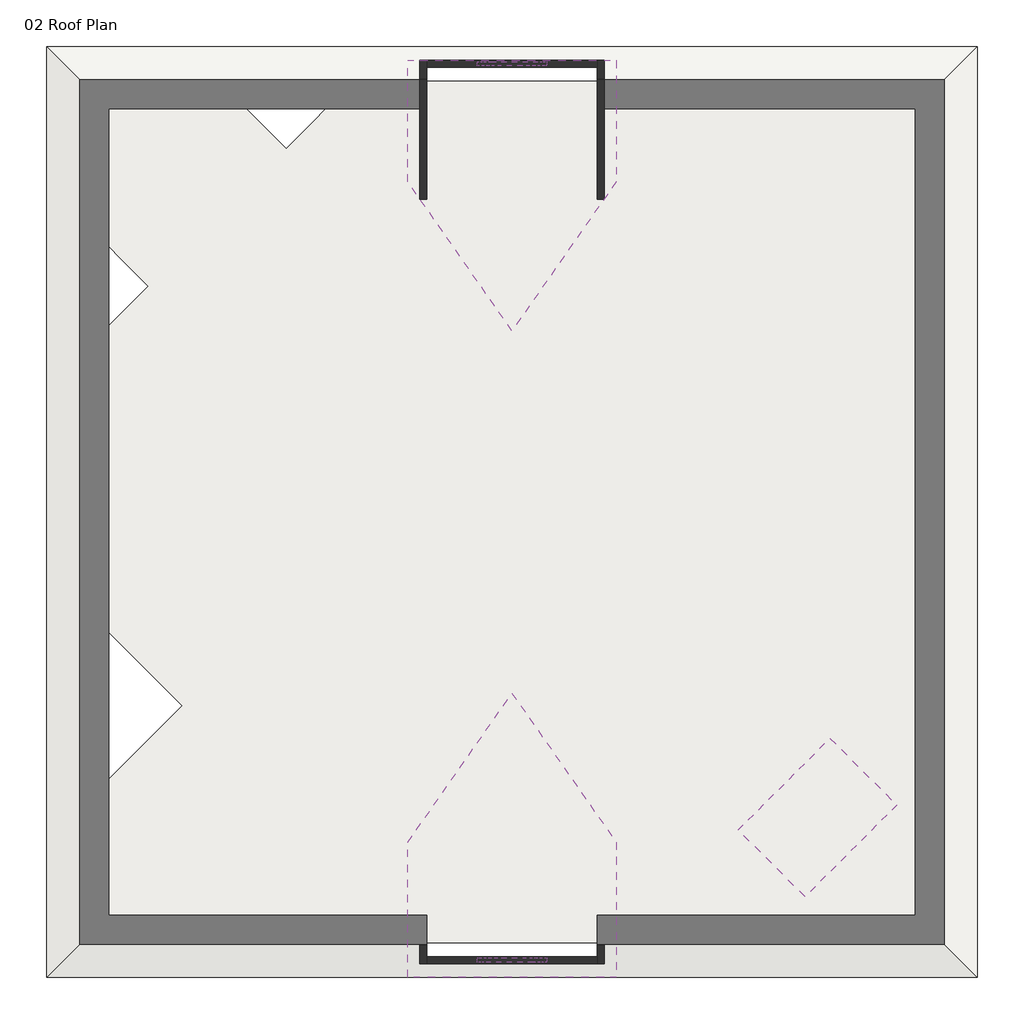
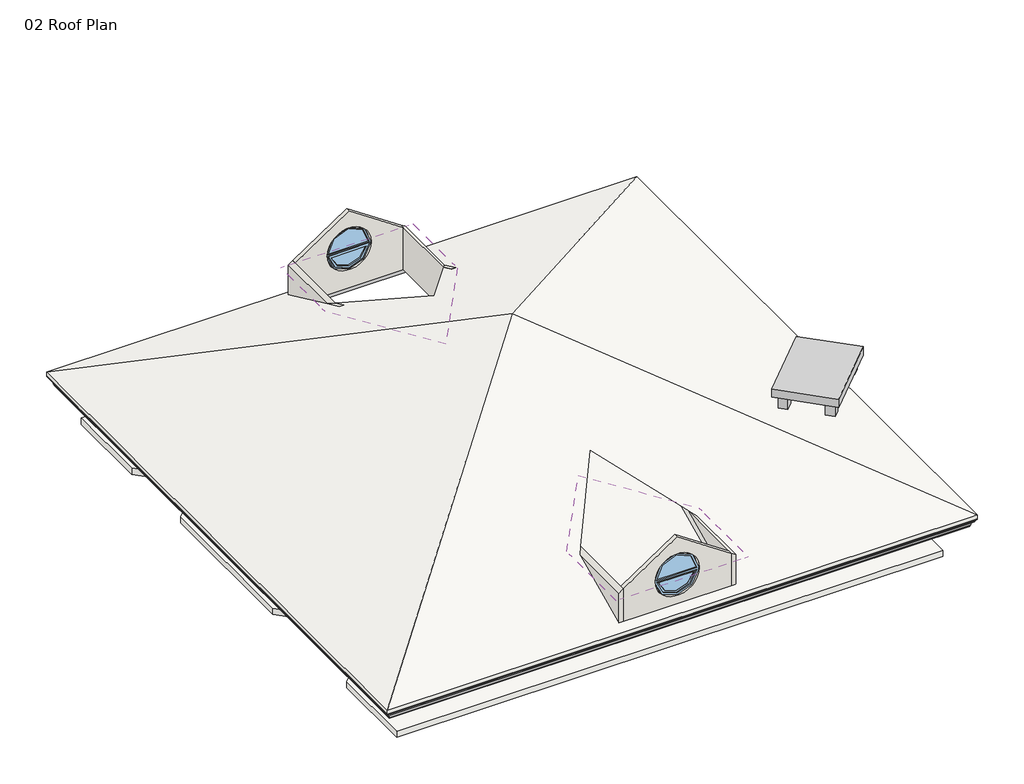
# One storey: 6 walls, 3 proxies, 3 roofs, 2 windows, 1 slab.
"""IFC4 building model written with IfcOpenShell, lengths in millimetres."""

from ifc_helpers import new_model, si_unit, frame, origin, place, context, project, spatial, polyline, circle_curve, ellipse_curve, outline, extrude, faceted_brep, transform, mapped, element, save
from ifc_brep_helpers import plane_surface, cylinder_surface, revolved_surface, advanced_brep
from components import generic_models_19_generic_models_19_1280a4e2, generic_models_21_generic_models_21_14a27b0a, window_round_1000_mm_dia_47539739

model = new_model("IFC4")

# Units and contexts
model_context = context("Model", 3, world=origin())
ifc_project = project(units=[si_unit("LENGTHUNIT", "METRE", prefix="MILLI")], contexts=[model_context])

# Site, building, storey
site = spatial("IfcSite", under=ifc_project)
building = spatial("IfcBuilding", under=site)
storey = spatial("IfcBuildingStorey", under=building, Name="02 Roof Plan", Elevation=6600.0)

# Proxies
placement = place(None, origin())
generic_models_19_generic_models_19_shape = generic_models_19_generic_models_19_1280a4e2(model_context)
element("IfcBuildingElementProxy", 1, Name="Generic Models 19 : Generic Models 19", ObjectType="Generic Models 19 : Generic Models 19", at=placement, inside=storey, context=model_context, shape_type="MappedRepresentation", body=[
    mapped(generic_models_19_generic_models_19_shape, transform((0.0, 0.0, 0.0), x_axis=(1.0, 0.0, 0.0), y_axis=(0.0, 1.0, 0.0), z_axis=(0.0, 0.0, 1.0))),
])
generic_models_21_generic_models_21_shape = generic_models_21_generic_models_21_14a27b0a(model_context)
element("IfcBuildingElementProxy", 2, Name="Generic Models 21 : Generic Models 21", ObjectType="Generic Models 21 : Generic Models 21", at=placement, inside=storey, context=model_context, shape_type="MappedRepresentation", body=[
    mapped(generic_models_21_generic_models_21_shape, transform((0.0, 0.0, 0.0), x_axis=(1.0, 0.0, 0.0), y_axis=(0.0, 1.0, 0.0), z_axis=(0.0, 0.0, 1.0))),
])
element("IfcBuildingElementProxy", 3, Name="Mass 2 : Mass 2", ObjectType="Mass 2 : Mass 2", at=placement, inside=storey, context=model_context, shape_type="AdvancedBrep", body=[
    advanced_brep(
    [(13185.4886219, 13185.4885097, 7460.2615574), (13185.4886219, 13185.4885097, 7468.2615574), (13185.4886219, -185.488728, 7468.2615574), (13185.4886219, -185.488728, 7460.2615574), (13174.4886219, 13174.4885097, 7444.2615574), (13174.4886219, -174.488728, 7444.2615574), (13165.4886219, 13165.4885097, 7444.2615574), (13165.4886219, -165.488728, 7444.2615574), (13165.4886219, 13165.4885097, 7433.1779329), (13165.4886219, -165.488728, 7433.1779329), (13144.1250626, 13144.1249504, 7395.9337382), (13144.1250626, -144.1251687, 7395.9337382), (13104.4886219, 13104.4885097, 7313.2615574), (13104.4886219, -104.488728, 7313.2615574), (13095.4886219, 13095.4885097, 7313.2615574), (13095.4886219, -95.488728, 7313.2615574), (13095.4886219, 13095.4885097, 7301.2615574), (13095.4886219, -95.488728, 7301.2615574), (13088.4886219, 13088.4885097, 7301.2615574), (13088.4886219, -88.488728, 7301.2615574), (13088.4886219, 13088.4885097, 7281.2615574), (13088.4886219, -88.488728, 7281.2615574), (13000.0001123, 13000.0, 7281.2615574), (13000.0001123, -0.0002183, 7281.2615574), (13000.0001123, 13000.0, 7482.2615574), (13000.0001123, -0.0002183, 7482.2615574), (13199.4886219, 13199.4885097, 7482.2615574), (13199.4886219, -199.488728, 7482.2615574), (-185.4886157, -185.488728, 7468.2615574), (-185.4886157, -185.488728, 7460.2615574), (-174.4886157, -174.488728, 7444.2615574), (-165.4886157, -165.488728, 7444.2615574), (-165.4886157, -165.488728, 7433.1779329), (-144.1250564, -144.1251687, 7395.9337382), (-104.4886157, -104.488728, 7313.2615574), (-95.4886157, -95.488728, 7313.2615574), (-95.4886157, -95.488728, 7301.2615574), (-88.4886157, -88.488728, 7301.2615574), (-88.4886157, -88.488728, 7281.2615574), (-0.0001061, -0.0002183, 7281.2615574), (-0.0001061, -0.0002183, 7482.2615574), (-199.4886157, -199.488728, 7482.2615574), (-185.4886157, 13185.4885097, 7468.2615574), (-185.4886157, 13185.4885097, 7460.2615574), (-174.4886157, 13174.4885097, 7444.2615574), (-165.4886157, 13165.4885097, 7444.2615574), (-165.4886157, 13165.4885097, 7433.1779329), (-144.1250564, 13144.1249504, 7395.9337382), (-104.4886157, 13104.4885097, 7313.2615574), (-95.4886157, 13095.4885097, 7313.2615574), (-95.4886157, 13095.4885097, 7301.2615574), (-88.4886157, 13088.4885097, 7301.2615574), (-88.4886157, 13088.4885097, 7281.2615574), (-0.0001061, 13000.0, 7281.2615574), (-0.0001061, 13000.0, 7482.2615574), (-199.4886157, 13199.4885097, 7482.2615574)],
    [
        (0, 1),
        (1, 2),
        (2, 3),
        (3, 0),
        (4, 0, ellipse_curve(frame((13189.7399909, 13189.7398787, 7445.5574912), z_axis=(-0.7071067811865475, 0.7071067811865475, 0.0), x_axis=(-0.7071067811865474, -0.7071067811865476, 0.0)), 21.6464178, 15.3063288)),
        (3, 5, ellipse_curve(frame((13189.7399909, -189.740097, 7445.5574912), z_axis=(-0.7071067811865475, -0.7071067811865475, 0.0), x_axis=(0.7071067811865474, -0.7071067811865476, 0.0)), 21.6464178, 15.3063288)),
        (5, 4),
        (6, 4),
        (5, 7),
        (7, 6),
        (8, 6),
        (7, 9),
        (9, 8),
        (10, 8, ellipse_curve(frame((13122.3419795, 13122.3418673, 7433.1779329), z_axis=(0.7071067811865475, -0.7071067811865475, 0.0), x_axis=(0.7071067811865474, 0.7071067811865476, 0.0)), 61.0185669, 43.1466424)),
        (9, 11, ellipse_curve(frame((13122.3419795, -122.3420856, 7433.1779329), z_axis=(0.7071067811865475, 0.7071067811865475, 0.0), x_axis=(-0.7071067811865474, 0.7071067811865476, 0.0)), 61.0185669, 43.1466424)),
        (11, 10),
        (12, 10, ellipse_curve(frame((13209.326272, 13209.3261598, 7313.8358395), z_axis=(-0.7071067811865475, 0.7071067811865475, 0.0), x_axis=(-0.7071067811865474, -0.7071067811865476, 0.0)), 148.2650511, 104.839223)),
        (11, 13, ellipse_curve(frame((13209.326272, -209.3263781, 7313.8358395), z_axis=(-0.7071067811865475, -0.7071067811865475, 0.0), x_axis=(0.7071067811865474, -0.7071067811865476, 0.0)), 148.2650511, 104.839223)),
        (13, 12),
        (14, 12),
        (13, 15),
        (15, 14),
        (16, 14),
        (15, 17),
        (17, 16),
        (18, 16),
        (17, 19),
        (19, 18),
        (20, 18),
        (19, 21),
        (21, 20),
        (22, 20),
        (21, 23),
        (23, 22),
        (24, 22),
        (23, 25),
        (25, 24),
        (26, 24),
        (25, 27),
        (27, 26),
        (1, 26, ellipse_curve(frame((13185.4886219, 13185.4885097, 7482.2615574), z_axis=(0.7071067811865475, -0.7071067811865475, 0.0), x_axis=(0.7071067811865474, 0.7071067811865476, 0.0)), 19.7989899, 14.0)),
        (27, 2, ellipse_curve(frame((13185.4886219, -185.488728, 7482.2615574), z_axis=(0.7071067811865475, 0.7071067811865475, 0.0), x_axis=(-0.7071067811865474, 0.7071067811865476, 0.0)), 19.7989899, 14.0)),
        (2, 28),
        (28, 29),
        (29, 3),
        (29, 30, ellipse_curve(frame((-189.7399847, -189.740097, 7445.5574912), z_axis=(-0.7071067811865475, 0.7071067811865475, 0.0), x_axis=(-0.7071067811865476, -0.7071067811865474, 0.0)), 21.6464178, 15.3063288)),
        (30, 5),
        (30, 31),
        (31, 7),
        (31, 32),
        (32, 9),
        (32, 33, ellipse_curve(frame((-122.3419733, -122.3420856, 7433.1779329), z_axis=(0.7071067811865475, -0.7071067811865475, 0.0), x_axis=(0.7071067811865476, 0.7071067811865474, 0.0)), 61.0185669, 43.1466424)),
        (33, 11),
        (33, 34, ellipse_curve(frame((-209.3262659, -209.3263781, 7313.8358395), z_axis=(-0.7071067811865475, 0.7071067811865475, 0.0), x_axis=(-0.7071067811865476, -0.7071067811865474, 0.0)), 148.2650511, 104.839223)),
        (34, 13),
        (34, 35),
        (35, 15),
        (35, 36),
        (36, 17),
        (36, 37),
        (37, 19),
        (37, 38),
        (38, 21),
        (38, 39),
        (39, 23),
        (39, 40),
        (40, 25),
        (40, 41),
        (41, 27),
        (41, 28, ellipse_curve(frame((-185.4886157, -185.488728, 7482.2615574), z_axis=(0.7071067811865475, -0.7071067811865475, 0.0), x_axis=(0.7071067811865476, 0.7071067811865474, 0.0)), 19.7989899, 14.0)),
        (28, 42),
        (42, 43),
        (43, 29),
        (43, 44, ellipse_curve(frame((-189.7399847, 13189.7398787, 7445.5574912), z_axis=(0.7071067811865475, 0.7071067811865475, 0.0), x_axis=(-0.7071067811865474, 0.7071067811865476, 0.0)), 21.6464178, 15.3063288)),
        (44, 30),
        (44, 45),
        (45, 31),
        (45, 46),
        (46, 32),
        (46, 47, ellipse_curve(frame((-122.3419733, 13122.3418673, 7433.1779329), z_axis=(-0.7071067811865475, -0.7071067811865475, 0.0), x_axis=(0.7071067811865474, -0.7071067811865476, 0.0)), 61.0185669, 43.1466424)),
        (47, 33),
        (47, 48, ellipse_curve(frame((-209.3262659, 13209.3261598, 7313.8358395), z_axis=(0.7071067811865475, 0.7071067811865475, 0.0), x_axis=(-0.7071067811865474, 0.7071067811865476, 0.0)), 148.2650511, 104.839223)),
        (48, 34),
        (48, 49),
        (49, 35),
        (49, 50),
        (50, 36),
        (50, 51),
        (51, 37),
        (51, 52),
        (52, 38),
        (52, 53),
        (53, 39),
        (53, 54),
        (54, 40),
        (54, 55),
        (55, 41),
        (55, 42, ellipse_curve(frame((-185.4886157, 13185.4885097, 7482.2615574), z_axis=(-0.7071067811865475, -0.7071067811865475, 0.0), x_axis=(0.7071067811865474, -0.7071067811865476, 0.0)), 19.7989899, 14.0)),
        (42, 1),
        (0, 43),
        (4, 44),
        (6, 45),
        (8, 46),
        (10, 47),
        (12, 48),
        (14, 49),
        (16, 50),
        (18, 51),
        (20, 52),
        (22, 53),
        (24, 54),
        (26, 55),
    ],
    [
        plane_surface(frame((13185.4886219, 13185.4885097, 7468.2615574), z_axis=(1.0, 0.0, 0.0), x_axis=(0.0, -1.0, 0.0))),
        revolved_surface(polyline([(13205.046319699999, -205.04642581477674, 7445.5574912), (13205.046319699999, 13205.046207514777, 7445.5574912)]), (13189.7399909, 13000.0, 7445.5574912), (0.0, -1.0, 0.0)),
        plane_surface(frame((13174.4886219, 13174.4885097, 7444.2615574), z_axis=(0.0, 0.0, -1.0), x_axis=(0.0, -1.0, 0.0))),
        plane_surface(frame((13165.4886219, 13165.4885097, 7444.2615574), z_axis=(1.0, 0.0, 0.0), x_axis=(0.0, -1.0, 0.0))),
        cylinder_surface(frame((13122.3419795, 13000.0, 7433.1779329), z_axis=(0.0, 1.0, 0.0), x_axis=(1.0, 0.0, 0.0)), 43.1466424),
        revolved_surface(polyline([(13314.165495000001, -314.1656011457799, 7313.8358395), (13314.165495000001, 13314.16538284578, 7313.8358395)]), (13209.326272, 13000.0, 7313.8358395), (0.0, -1.0, 0.0)),
        plane_surface(frame((13104.4886219, 13104.4885097, 7313.2615574), z_axis=(0.0, 0.0, -1.0), x_axis=(0.0, -1.0, 0.0))),
        plane_surface(frame((13095.4886219, 13095.4885097, 7313.2615574), z_axis=(1.0, 0.0, 0.0), x_axis=(0.0, -1.0, 0.0))),
        plane_surface(frame((13095.4886219, 13095.4885097, 7301.2615574), z_axis=(0.0, 0.0, -1.0), x_axis=(0.0, -1.0, 0.0))),
        plane_surface(frame((13088.4886219, 13088.4885097, 7301.2615574), z_axis=(1.0, 0.0, 0.0), x_axis=(0.0, -1.0, 0.0))),
        plane_surface(frame((13088.4886219, 13088.4885097, 7281.2615574), z_axis=(0.0, 0.0, -1.0), x_axis=(0.0, -1.0, 0.0))),
        plane_surface(frame((13000.0001123, 13000.0, 7281.2615574), z_axis=(-1.0, 0.0, 0.0), x_axis=(0.0, -1.0, 0.0))),
        plane_surface(frame((13000.0001123, 13000.0, 7482.2615574), z_axis=(0.0, 0.0, 1.0), x_axis=(0.0, -1.0, 0.0))),
        cylinder_surface(frame((13185.4886219, 13000.0, 7482.2615574), z_axis=(0.0, 1.0, 0.0), x_axis=(1.0, 0.0, 1.0784912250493e-12)), 14.0),
        plane_surface(frame((13185.4886219, -185.488728, 7468.2615574), z_axis=(0.0, -1.0, 0.0), x_axis=(-1.0, 0.0, 0.0))),
        revolved_surface(polyline([(-205.04631351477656, -205.04642579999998, 7445.5574912), (13205.046319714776, -205.04642579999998, 7445.5574912)]), (13000.0001123, -189.740097, 7445.5574912), (-1.0, 0.0, 0.0)),
        plane_surface(frame((13174.4886219, -174.488728, 7444.2615574), z_axis=(0.0, 0.0, -1.0), x_axis=(-1.0, 0.0, 0.0))),
        plane_surface(frame((13165.4886219, -165.488728, 7444.2615574), z_axis=(0.0, -1.0, 0.0), x_axis=(-1.0, 0.0, 0.0))),
        cylinder_surface(frame((13000.0001123, -122.3420856, 7433.1779329), z_axis=(1.0, 0.0, 0.0), x_axis=(0.0, -1.0, 0.0)), 43.1466424),
        revolved_surface(polyline([(-314.16548894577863, -314.1656011, 7313.8358395), (13314.16549504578, -314.1656011, 7313.8358395)]), (13000.0001123, -209.3263781, 7313.8358395), (-1.0, 0.0, 0.0)),
        plane_surface(frame((13104.4886219, -104.488728, 7313.2615574), z_axis=(0.0, 0.0, -1.0), x_axis=(-1.0, 0.0, 0.0))),
        plane_surface(frame((13095.4886219, -95.488728, 7313.2615574), z_axis=(0.0, -1.0, 0.0), x_axis=(-1.0, 0.0, 0.0))),
        plane_surface(frame((13095.4886219, -95.488728, 7301.2615574), z_axis=(0.0, 0.0, -1.0), x_axis=(-1.0, 0.0, 0.0))),
        plane_surface(frame((13088.4886219, -88.488728, 7301.2615574), z_axis=(0.0, -1.0, 0.0), x_axis=(-1.0, 0.0, 0.0))),
        plane_surface(frame((13088.4886219, -88.488728, 7281.2615574), z_axis=(0.0, 0.0, -1.0), x_axis=(-1.0, 0.0, 0.0))),
        plane_surface(frame((13000.0001123, -0.0002183, 7281.2615574), z_axis=(0.0, 1.0, 0.0), x_axis=(-1.0, 0.0, 0.0))),
        plane_surface(frame((13000.0001123, -0.0002183, 7482.2615574), z_axis=(0.0, 0.0, 1.0), x_axis=(-1.0, 0.0, 0.0))),
        cylinder_surface(frame((13000.0001123, -185.488728, 7482.2615574), z_axis=(1.0, 0.0, 0.0), x_axis=(0.0, -1.0, 1.0785023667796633e-12)), 14.0),
        plane_surface(frame((-185.4886157, -185.488728, 7468.2615574), z_axis=(-1.0, 0.0, 0.0), x_axis=(0.0, 1.0, 0.0))),
        revolved_surface(polyline([(-205.0463135, 13205.046207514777, 7445.5574912), (-205.0463135, -205.04642581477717, 7445.5574912)]), (-189.7399847, -0.0002183, 7445.5574912), (0.0, 1.0, 0.0)),
        plane_surface(frame((-174.4886157, -174.488728, 7444.2615574), z_axis=(0.0, 0.0, -1.0), x_axis=(0.0, 1.0, 0.0))),
        plane_surface(frame((-165.4886157, -165.488728, 7444.2615574), z_axis=(-1.0, 0.0, 0.0), x_axis=(0.0, 1.0, 0.0))),
        cylinder_surface(frame((-122.3419733, -0.0002183, 7433.1779329), z_axis=(0.0, -1.0, 0.0), x_axis=(-1.0, 0.0, 0.0)), 43.1466424),
        revolved_surface(polyline([(-314.1654889, 13314.16538284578, 7313.8358395), (-314.1654889, -314.16560114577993, 7313.8358395)]), (-209.3262659, -0.0002183, 7313.8358395), (0.0, 1.0, 0.0)),
        plane_surface(frame((-104.4886157, -104.488728, 7313.2615574), z_axis=(0.0, 0.0, -1.0), x_axis=(0.0, 1.0, 0.0))),
        plane_surface(frame((-95.4886157, -95.488728, 7313.2615574), z_axis=(-1.0, 0.0, 0.0), x_axis=(0.0, 1.0, 0.0))),
        plane_surface(frame((-95.4886157, -95.488728, 7301.2615574), z_axis=(0.0, 0.0, -1.0), x_axis=(0.0, 1.0, 0.0))),
        plane_surface(frame((-88.4886157, -88.488728, 7301.2615574), z_axis=(-1.0, 0.0, 0.0), x_axis=(0.0, 1.0, 0.0))),
        plane_surface(frame((-88.4886157, -88.488728, 7281.2615574), z_axis=(0.0, 0.0, -1.0), x_axis=(0.0, 1.0, 0.0))),
        plane_surface(frame((-0.0001061, -0.0002183, 7281.2615574), z_axis=(1.0, 0.0, 0.0), x_axis=(0.0, 1.0, 0.0))),
        plane_surface(frame((-0.0001061, -0.0002183, 7482.2615574), z_axis=(0.0, 0.0, 1.0), x_axis=(0.0, 1.0, 0.0))),
        cylinder_surface(frame((-185.4886157, -0.0002183, 7482.2615574), z_axis=(0.0, -1.0, 0.0), x_axis=(-1.0, 0.0, 1.079096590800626e-12)), 14.0),
        plane_surface(frame((-185.4886157, 13185.4885097, 7468.2615574), z_axis=(0.0, 1.0, 0.0), x_axis=(1.0, 0.0, 0.0))),
        revolved_surface(polyline([(13205.046319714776, 13205.0462075, 7445.5574912), (-205.04631351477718, 13205.0462075, 7445.5574912)]), (-0.0001061, 13189.7398787, 7445.5574912), (1.0, 0.0, 0.0)),
        plane_surface(frame((-174.4886157, 13174.4885097, 7444.2615574), z_axis=(0.0, 0.0, -1.0), x_axis=(1.0, 0.0, 0.0))),
        plane_surface(frame((-165.4886157, 13165.4885097, 7444.2615574), z_axis=(0.0, 1.0, 0.0), x_axis=(1.0, 0.0, 0.0))),
        cylinder_surface(frame((-0.0001061, 13122.3418673, 7433.1779329), z_axis=(-1.0, 0.0, 0.0), x_axis=(0.0, 1.0, 0.0)), 43.1466424),
        revolved_surface(polyline([(13314.16549504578, 13314.165382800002, 7313.8358395), (-314.16548894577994, 13314.165382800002, 7313.8358395)]), (-0.0001061, 13209.3261598, 7313.8358395), (1.0, 0.0, 0.0)),
        plane_surface(frame((-104.4886157, 13104.4885097, 7313.2615574), z_axis=(0.0, 0.0, -1.0), x_axis=(1.0, 0.0, 0.0))),
        plane_surface(frame((-95.4886157, 13095.4885097, 7313.2615574), z_axis=(0.0, 1.0, 0.0), x_axis=(1.0, 0.0, 0.0))),
        plane_surface(frame((-95.4886157, 13095.4885097, 7301.2615574), z_axis=(0.0, 0.0, -1.0), x_axis=(1.0, 0.0, 0.0))),
        plane_surface(frame((-88.4886157, 13088.4885097, 7301.2615574), z_axis=(0.0, 1.0, 0.0), x_axis=(1.0, 0.0, 0.0))),
        plane_surface(frame((-88.4886157, 13088.4885097, 7281.2615574), z_axis=(0.0, 0.0, -1.0), x_axis=(1.0, 0.0, 0.0))),
        plane_surface(frame((-0.0001061, 13000.0, 7281.2615574), z_axis=(0.0, -1.0, 0.0), x_axis=(1.0, 0.0, 0.0))),
        plane_surface(frame((-0.0001061, 13000.0, 7482.2615574), z_axis=(0.0, 0.0, 1.0), x_axis=(1.0, 0.0, 0.0))),
        cylinder_surface(frame((-0.0001061, 13185.4885097, 7482.2615574), z_axis=(-1.0, 0.0, 0.0), x_axis=(0.0, 1.0, 1.079096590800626e-12)), 14.0),
    ],
    [
        (0, [[1, 2, 3, 4]]),
        (1, [[5, -4, 6, 7]]),
        (2, [[8, -7, 9, 10]]),
        (3, [[11, -10, 12, 13]]),
        (4, [[14, -13, 15, 16]]),
        (5, [[17, -16, 18, 19]]),
        (6, [[20, -19, 21, 22]]),
        (7, [[23, -22, 24, 25]]),
        (8, [[26, -25, 27, 28]]),
        (9, [[29, -28, 30, 31]]),
        (10, [[32, -31, 33, 34]]),
        (11, [[35, -34, 36, 37]]),
        (12, [[38, -37, 39, 40]]),
        (13, [[41, -40, 42, -2]]),
        (14, [[-3, 43, 44, 45]]),
        (15, [[-6, -45, 46, 47]]),
        (16, [[-9, -47, 48, 49]]),
        (17, [[-12, -49, 50, 51]]),
        (18, [[-15, -51, 52, 53]]),
        (19, [[-18, -53, 54, 55]]),
        (20, [[-21, -55, 56, 57]]),
        (21, [[-24, -57, 58, 59]]),
        (22, [[-27, -59, 60, 61]]),
        (23, [[-30, -61, 62, 63]]),
        (24, [[-33, -63, 64, 65]]),
        (25, [[-36, -65, 66, 67]]),
        (26, [[-39, -67, 68, 69]]),
        (27, [[-42, -69, 70, -43]]),
        (28, [[-44, 71, 72, 73]]),
        (29, [[-46, -73, 74, 75]]),
        (30, [[-48, -75, 76, 77]]),
        (31, [[-50, -77, 78, 79]]),
        (32, [[-52, -79, 80, 81]]),
        (33, [[-54, -81, 82, 83]]),
        (34, [[-56, -83, 84, 85]]),
        (35, [[-58, -85, 86, 87]]),
        (36, [[-60, -87, 88, 89]]),
        (37, [[-62, -89, 90, 91]]),
        (38, [[-64, -91, 92, 93]]),
        (39, [[-66, -93, 94, 95]]),
        (40, [[-68, -95, 96, 97]]),
        (41, [[-70, -97, 98, -71]]),
        (42, [[-72, 99, -1, 100]]),
        (43, [[-74, -100, -5, 101]]),
        (44, [[-76, -101, -8, 102]]),
        (45, [[-78, -102, -11, 103]]),
        (46, [[-80, -103, -14, 104]]),
        (47, [[-82, -104, -17, 105]]),
        (48, [[-84, -105, -20, 106]]),
        (49, [[-86, -106, -23, 107]]),
        (50, [[-88, -107, -26, 108]]),
        (51, [[-90, -108, -29, 109]]),
        (52, [[-92, -109, -32, 110]]),
        (53, [[-94, -110, -35, 111]]),
        (54, [[-96, -111, -38, 112]]),
        (55, [[-98, -112, -41, -99]]),
    ],
),
])

# Roofs
element("IfcRoof", 4, ObjectType="Generic - 18cm", at=placement, inside=storey, context=model_context, shape_type="Brep", body=[
    faceted_brep([(6499.9999509, 6499.999943, 10506.9148416), (12988.534358, 12988.5343501, 7481.2615574), (12988.534358, 11.4655359, 7481.2615574), (11.4655438, 12988.5343501, 7481.2615574), (11.4655438, 11.4655359, 7481.2615574), (5274.4995657, 12900.0, 7522.5458029), (5274.4995657, 10896.9703095, 8456.5738871), (6499.9999509, 9144.9076047, 9273.5741439), (7725.5003361, 10896.9703095, 8456.5738871), (7725.5003361, 12900.0, 7522.5458029), (5274.4995657, 2103.0295766, 8456.5738871), (5274.4995657, 99.9997817, 7522.5457542), (7725.5003361, 99.9997817, 7522.5457542), (7725.5003361, 2103.0295766, 8456.5738871), (6499.9999509, 3855.0922813, 9273.5741439), (13199.9999509, 13199.999943, 7581.2615574), (6499.9999509, 6499.999943, 10705.522867), (13199.9999509, -200.000057, 7581.2615574), (-200.0000491, 13199.999943, 7581.2615574), (-200.0000491, -200.000057, 7581.2615574), (5274.4995657, 11322.8865944, 8456.5738871), (5274.4995657, 12900.0, 7721.1538283), (7725.5003361, 12900.0, 7721.1538283), (7725.5003361, 11322.8865944, 8456.5738871), (6499.9999509, 9570.8238897, 9273.5741439), (5274.4995657, 99.9997817, 7721.1537796), (5274.4995657, 1677.1132916, 8456.5738871), (6499.9999509, 3429.1759964, 9273.5741439), (7725.5003361, 1677.1132916, 8456.5738871), (7725.5003361, 99.9997817, 7721.1537796), (13199.9999509, 13199.999943, 7481.2615574), (-200.0000491, 13199.999943, 7481.2615574), (-200.0000491, -200.000057, 7481.2615574), (13199.9999509, -200.000057, 7481.2615574)], [[[0, 1, 2]], [[3, 0, 4]], [[1, 0, 3], [5, 6, 7, 8, 9]], [[0, 2, 4], [10, 11, 12, 13, 14]], [[15, 16, 17]], [[18, 19, 16]], [[16, 15, 18], [20, 21, 22, 23, 24]], [[17, 16, 19], [25, 26, 27, 28, 29]], [[18, 15, 30, 31]], [[19, 18, 31, 32]], [[17, 19, 32, 33]], [[15, 17, 33, 30]], [[31, 30, 33, 32], [2, 1, 3, 4]], [[25, 11, 10, 26]], [[28, 13, 12, 29]], [[11, 25, 29, 12]], [[26, 10, 14, 27]], [[13, 28, 27, 14]], [[5, 21, 20, 6]], [[21, 5, 9, 22]], [[22, 9, 8, 23]], [[23, 8, 7, 24]], [[6, 20, 24, 7]]]),
])
element("IfcRoof", 5, ObjectType="Generic - 18cm", at=placement, inside=storey, context=model_context, shape_type="Brep", body=[
    faceted_brep([(6499.9999509, -200.000057, 9489.9072204), (4999.9999509, -200.000057, 8489.9072204), (4999.9999509, -200.000057, 8389.9072204), (5174.4995657, -200.000057, 8389.9072204), (6499.9999509, -200.000057, 9273.5741439), (7825.5003361, -200.000057, 8389.9072204), (7999.9999509, -200.000057, 8389.9072204), (7999.9999509, -200.000057, 8489.9072204), (6499.9999509, 3893.1037761, 9489.9072204), (4999.9999509, 1748.5968556, 8489.9072204), (7999.9999509, 1748.5968556, 8489.9072204), (7999.9999509, 1534.1461636, 8389.9072204), (6499.9999509, 3429.1759964, 9273.5741439), (7825.5003361, 1534.1461636, 8389.9072204), (5174.4995657, 1534.1461636, 8389.9072204), (4999.9999509, 1534.1461636, 8389.9072204)], [[[0, 1, 2, 3, 4, 5, 6, 7]], [[8, 9, 1, 0]], [[10, 8, 0, 7]], [[10, 7, 6, 11]], [[4, 12, 13, 5]], [[12, 4, 3, 14]], [[1, 9, 15, 2]], [[13, 11, 6, 5]], [[15, 14, 3, 2]], [[9, 8, 10, 11, 13, 12, 14, 15]]]),
])
element("IfcRoof", 6, ObjectType="Generic - 18cm", at=placement, inside=storey, context=model_context, shape_type="Brep", body=[
    faceted_brep([(4999.9999509, 13000.0, 8489.9072204), (6499.9999509, 13000.0, 9489.9072204), (7999.9999509, 13000.0, 8489.9072204), (7999.9999509, 13000.0, 8389.9072204), (7825.5003361, 13000.0, 8389.9072204), (6499.9999509, 13000.0, 9273.5741439), (5174.4995657, 13000.0, 8389.9072204), (4999.9999509, 13000.0, 8389.9072204), (4999.9999509, 11251.4030304, 8489.9072204), (6499.9999509, 9106.8961099, 9489.9072204), (7999.9999509, 11251.4030304, 8489.9072204), (7999.9999509, 11465.8537225, 8389.9072204), (6499.9999509, 9570.8238897, 9273.5741439), (7825.5003361, 11465.8537225, 8389.9072204), (5174.4995657, 11465.8537225, 8389.9072204), (4999.9999509, 11465.8537225, 8389.9072204)], [[[0, 1, 2, 3, 4, 5, 6, 7]], [[1, 0, 8, 9]], [[2, 1, 9, 10]], [[2, 10, 11, 3]], [[12, 5, 4, 13]], [[5, 12, 14, 6]], [[8, 0, 7, 15]], [[4, 3, 11, 13]], [[7, 6, 14, 15]], [[9, 8, 15, 14, 12, 13, 11, 10]]]),
])

# Slab
element("IfcSlab", 7, ObjectType="Generic 150mm", at=placement, inside=storey, context=model_context, shape_type="SweptSolid", body=[
    extrude(outline(polyline([(2279.8988813, 12700.0), (3247.3087005, 11732.5901808), (4214.7185197, 12700.0), (12700.0001123, 12700.0), (12700.0001123, 299.9997817), (299.9998939, 299.9997817), (299.9998939, 2257.6450199), (1754.6297619, 3712.2748879), (299.9998939, 5166.9047558), (299.9998939, 8785.2813742), (1267.4097132, 9752.6911935), (299.9998939, 10720.1010127), (299.9998939, 12700.0), (2279.8988813, 12700.0)])), frame((0.0, 0.0, 6450.0), z_axis=(0.0, 0.0, 1.0), x_axis=(1.0, 0.0, 0.0)), (0.0, 0.0, 1.0), 150.0),
])

# Walls
element("IfcWall", 8, ObjectType="Generic - 100mm", at=placement, inside=storey, context=model_context, shape_type="Brep", body=[
    faceted_brep([(5174.4995657, 13000.0, 7481.2615574), (5174.4995657, 11001.9259427, 7481.2615574), (5174.4995657, 11001.9259427, 8606.2402969), (5174.4995657, 11465.8537225, 8389.9072204), (5174.4995657, 13000.0, 8389.9072204), (5274.4995657, 13000.0, 7481.2615574), (5274.4995657, 13000.0, 8456.5738871), (5274.4995657, 12900.0, 8456.5738871), (5274.4995657, 11322.8865944, 8456.5738871), (5274.4995657, 11001.9259427, 8606.2402969), (5274.4995657, 11001.9259427, 7481.2615574)], [[[0, 1, 2, 3, 4]], [[5, 6, 7, 8, 9, 10]], [[1, 0, 5, 10]], [[2, 1, 10, 9]], [[4, 3, 8, 7, 6]], [[3, 2, 9, 8]], [[0, 4, 6, 5]]]),
])
element("IfcWall", 9, ObjectType="Generic - 100mm", at=placement, inside=storey, context=model_context, shape_type="Brep", body=[
    faceted_brep([(7725.5003361, 13000.0, 7444.2615574), (7725.5003361, 12900.0, 7444.2615574), (7725.5003361, 11001.9259427, 7444.2615574), (7725.5003361, 11001.9259427, 8606.2402969), (7725.5003361, 11322.8865944, 8456.5738871), (7725.5003361, 12900.0, 8456.5738871), (7725.5003361, 13000.0, 8456.5738871), (7825.5003361, 13000.0, 7444.2615574), (7825.5003361, 13000.0, 8389.9072204), (7825.5003361, 11465.8537225, 8389.9072204), (7825.5003361, 11001.9259427, 8606.2402969), (7825.5003361, 11001.9259427, 7444.2615574)], [[[0, 1, 2, 3, 4, 5, 6]], [[7, 8, 9, 10, 11]], [[2, 1, 0, 7, 11]], [[3, 2, 11, 10]], [[6, 5, 4, 9, 8]], [[4, 3, 10, 9]], [[0, 6, 8, 7]]]),
])
element("IfcWall", 10, ObjectType="Generic - 100mm", at=placement, inside=storey, context=model_context, shape_type="AdvancedBrep", body=[
    advanced_brep(
    [(5274.4995657, 12900.0, 7444.2615574), (7725.5003361, 12900.0, 7444.2615574), (7725.5003361, 12900.0, 8456.5738871), (6499.9999509, 12900.0, 9273.5741439), (5274.4995657, 12900.0, 8456.5738871), (5999.9999509, 12900.0, 8374.5410444), (6999.9999509, 12900.0, 8374.5410444), (5274.4995657, 13000.0, 7444.2615574), (5274.4995657, 13000.0, 7481.2615574), (5274.4995657, 13000.0, 8456.5738871), (6499.9999509, 13000.0, 9273.5741439), (7725.5003361, 13000.0, 8456.5738871), (7725.5003361, 13000.0, 7444.2615574), (5999.9999509, 13000.0, 8374.5410444), (6999.9999509, 13000.0, 8374.5410444)],
    [
        (0, 1),
        (1, 2),
        (2, 3),
        (3, 4),
        (4, 0),
        (5, 6, circle_curve(frame((6499.9999509, 12900.0, 8374.5410444), z_axis=(0.0, 1.0, 0.0), x_axis=(1.0, 0.0, 0.0)), 500.0)),
        (6, 5, circle_curve(frame((6499.9999509, 12900.0, 8374.5410444), z_axis=(0.0, 1.0, 0.0), x_axis=(1.0, 0.0, 0.0)), 500.0)),
        (7, 8),
        (8, 9),
        (9, 10),
        (10, 11),
        (11, 12),
        (12, 7),
        (13, 14, circle_curve(frame((6499.9999509, 13000.0, 8374.5410444), z_axis=(0.0, -1.0, 0.0), x_axis=(1.0, 0.0, 0.0)), 500.0)),
        (14, 13, circle_curve(frame((6499.9999509, 13000.0, 8374.5410444), z_axis=(0.0, -1.0, 0.0), x_axis=(1.0, 0.0, 0.0)), 500.0)),
        (0, 7),
        (12, 1),
        (3, 10),
        (9, 4),
        (2, 11),
        (13, 5),
        (6, 14),
    ],
    [
        plane_surface(frame((5174.4995657, 12900.0, 7444.2615574), z_axis=(0.0, -1.0, 0.0), x_axis=(1.0, 0.0, 0.0))),
        plane_surface(frame((5174.4995657, 13000.0, 7444.2615574), z_axis=(0.0, 1.0, 0.0), x_axis=(-1.0, 0.0, 0.0))),
        plane_surface(frame((5224.4995657, 12900.0, 7444.2615574), z_axis=(0.0, 0.0, -1.0), x_axis=(0.0, 1.0, 0.0))),
        plane_surface(frame((6499.9999509, 13000.0, 9273.5741439), z_axis=(-0.5547001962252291, 0.0, 0.8320502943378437), x_axis=(0.0, -1.0, 0.0))),
        plane_surface(frame((7999.9999509, 13000.0, 8273.5741439), z_axis=(0.5547001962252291, 0.0, 0.8320502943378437), x_axis=(0.0, -1.0, 0.0))),
        plane_surface(frame((5274.4995657, 12992.5033357, 7481.2615574), z_axis=(-1.0, 0.0, 0.0), x_axis=(0.0, 1.0, 0.0))),
        plane_surface(frame((7725.5003361, 12700.0, 7444.2615574), z_axis=(1.0, 0.0, 0.0), x_axis=(0.0, -1.0, 0.0))),
        revolved_surface(polyline([(6999.9999509, 12900.0, 8374.5410444), (6999.9999509, 13000.0, 8374.5410444)]), (6499.9999509, 12900.0, 8374.5410444), (0.0, -1.0, 0.0)),
    ],
    [
        (0, [[1, 2, 3, 4, 5], [6, 7]]),
        (1, [[8, 9, 10, 11, 12, 13], [14, 15]]),
        (2, [[-1, 16, -13, 17]]),
        (3, [[-4, 18, -10, 19]]),
        (4, [[-3, 20, -11, -18]]),
        (5, [[-5, -19, -9, -8, -16]]),
        (6, [[-2, -17, -12, -20]]),
        (7, [[-14, 21, -7, 22]]),
        (7, [[-15, -22, -6, -21]]),
    ],
),
])
element("IfcWall", 11, ObjectType="Generic - 100mm", at=placement, inside=storey, context=model_context, shape_type="Brep", body=[
    faceted_brep([(7825.5003361, 1534.1461636, 8389.9072204), (7825.5003361, -0.0002183, 8389.9072204), (7825.5003361, -0.0002183, 7674.5230138), (7725.5003361, -0.0002183, 8456.5738871), (7725.5003361, 99.9997817, 8456.5738871), (7725.5003361, 1677.1132916, 8456.5738871), (7725.5003361, -0.0002183, 7674.5230138)], [[[0, 1, 2]], [[3, 4, 5, 6]], [[1, 3, 6, 2]], [[3, 1, 0, 5, 4]], [[0, 2, 6, 5]]]),
])
element("IfcWall", 12, ObjectType="Generic - 100mm", at=placement, inside=storey, context=model_context, shape_type="Brep", body=[
    faceted_brep([(5274.4995657, 1677.1132916, 8456.5738871), (5274.4995657, 99.9997817, 8456.5738871), (5274.4995657, -0.0002183, 8456.5738871), (5274.4995657, -0.0002183, 7674.5230138), (5174.4995657, -0.0002183, 8389.9072204), (5174.4995657, 1534.1461636, 8389.9072204), (5174.4995657, -0.0002183, 7674.5230138)], [[[0, 1, 2, 3]], [[4, 5, 6]], [[2, 4, 6, 3]], [[4, 2, 1, 0, 5]], [[0, 3, 6, 5]]]),
])
element("IfcWall", 13, ObjectType="Generic - 100mm", at=placement, inside=storey, context=model_context, shape_type="AdvancedBrep", body=[
    advanced_brep(
    [(7725.5003361, 99.9997817, 7444.2615574), (5274.4995657, 99.9997817, 7444.2615574), (5274.4995657, 99.9997817, 8456.5738871), (6499.9999509, 99.9997817, 9273.5741439), (7725.5003361, 99.9997817, 8456.5738871), (6999.9999509, 99.9997817, 8371.3762204), (5999.9999509, 99.9997817, 8371.3762204), (7725.5003361, -0.0002183, 7444.2615574), (7725.5003361, -0.0002183, 7674.5230138), (7725.5003361, -0.0002183, 8456.5738871), (6499.9999509, -0.0002183, 9273.5741439), (5274.4995657, -0.0002183, 8456.5738871), (5274.4995657, -0.0002183, 7674.5230138), (5274.4995657, -0.0002183, 7444.2615574), (6999.9999509, -0.0002183, 8371.3762204), (5999.9999509, -0.0002183, 8371.3762204)],
    [
        (0, 1),
        (1, 2),
        (2, 3),
        (3, 4),
        (4, 0),
        (5, 6, circle_curve(frame((6499.9999509, 99.9997817, 8371.3762204), z_axis=(0.0, -1.0, 0.0), x_axis=(-1.0, 0.0, 0.0)), 500.0)),
        (6, 5, circle_curve(frame((6499.9999509, 99.9997817, 8371.3762204), z_axis=(0.0, -1.0, 0.0), x_axis=(-1.0, 0.0, 0.0)), 500.0)),
        (7, 8),
        (8, 9),
        (9, 10),
        (10, 11),
        (11, 12),
        (12, 13),
        (13, 7),
        (14, 15, circle_curve(frame((6499.9999509, -0.0002183, 8371.3762204), z_axis=(0.0, 1.0, 0.0), x_axis=(-1.0, 0.0, 0.0)), 500.0)),
        (15, 14, circle_curve(frame((6499.9999509, -0.0002183, 8371.3762204), z_axis=(0.0, 1.0, 0.0), x_axis=(-1.0, 0.0, 0.0)), 500.0)),
        (0, 7),
        (13, 1),
        (4, 9),
        (11, 2),
        (3, 10),
        (14, 5),
        (6, 15),
    ],
    [
        plane_surface(frame((7825.5003361, 99.9997817, 7444.2615574), z_axis=(0.0, 1.0, 0.0), x_axis=(-1.0, 0.0, 0.0))),
        plane_surface(frame((7825.5003361, -0.0002183, 7444.2615574), z_axis=(0.0, -1.0, 0.0), x_axis=(1.0, 0.0, 0.0))),
        plane_surface(frame((7775.5003361, 99.9997817, 7444.2615574), z_axis=(0.0, 0.0, -1.0), x_axis=(0.0, -1.0, 0.0))),
        plane_surface(frame((7725.5003361, 7.496446, 7481.2615574), z_axis=(1.0, 0.0, 0.0), x_axis=(0.0, -1.0, 0.0))),
        plane_surface(frame((5274.4995657, 299.9997817, 7444.2615574), z_axis=(-1.0, 0.0, 0.0), x_axis=(0.0, 1.0, 0.0))),
        plane_surface(frame((7999.9999509, 1399.9997817, 8273.5741439), z_axis=(0.5547001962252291, 0.0, 0.8320502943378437), x_axis=(0.0, -1.0, 0.0))),
        plane_surface(frame((6499.9999509, 1399.9997817, 9273.5741439), z_axis=(-0.5547001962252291, 0.0, 0.8320502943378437), x_axis=(0.0, -1.0, 0.0))),
        revolved_surface(polyline([(5999.9999509, 99.9997817, 8371.3762204), (5999.9999509, -0.00021830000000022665, 8371.3762204)]), (6499.9999509, 99.9997817, 8371.3762204), (0.0, 1.0, 0.0)),
    ],
    [
        (0, [[1, 2, 3, 4, 5], [6, 7]]),
        (1, [[8, 9, 10, 11, 12, 13, 14], [15, 16]]),
        (2, [[-1, 17, -14, 18]]),
        (3, [[-5, 19, -9, -8, -17]]),
        (4, [[-2, -18, -13, -12, 20]]),
        (5, [[-4, 21, -10, -19]]),
        (6, [[-3, -20, -11, -21]]),
        (7, [[-15, 22, -7, 23]]),
        (7, [[-16, -23, -6, -22]]),
    ],
),
])

# Windows
window_round_1000_mm_dia_shape = window_round_1000_mm_dia_47539739(model_context)
element("IfcWindow", 14, ObjectType="Window-Round : 1000 mm dia.", at=placement, inside=storey, context=model_context, shape_type="MappedRepresentation", body=[
    mapped(window_round_1000_mm_dia_shape, transform((6149.9999509, 49.9997817, 7071.3762204), x_axis=(-1.0, 0.0, 0.0), y_axis=(0.0, -1.0, 0.0), z_axis=(0.0, 0.0, 1.0))),
])
element("IfcWindow", 15, ObjectType="Window-Round : 1000 mm dia.", at=placement, inside=storey, context=model_context, shape_type="MappedRepresentation", body=[
    mapped(window_round_1000_mm_dia_shape, transform((6849.9999509, 12950.0, 7074.5410444), x_axis=(1.0, 0.0, 0.0), y_axis=(0.0, 1.0, 0.0), z_axis=(0.0, 0.0, 1.0))),
])

save(model, "model.ifc")
